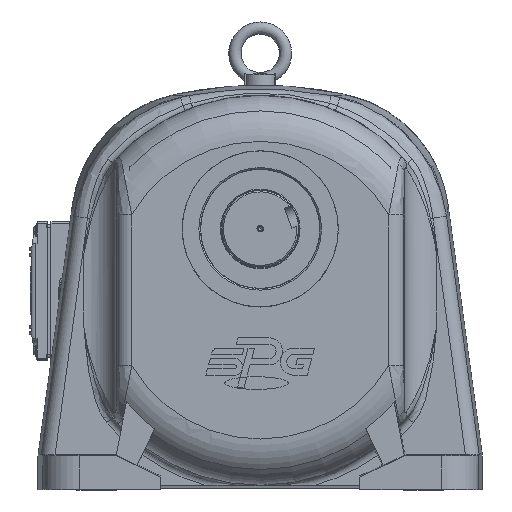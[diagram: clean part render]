
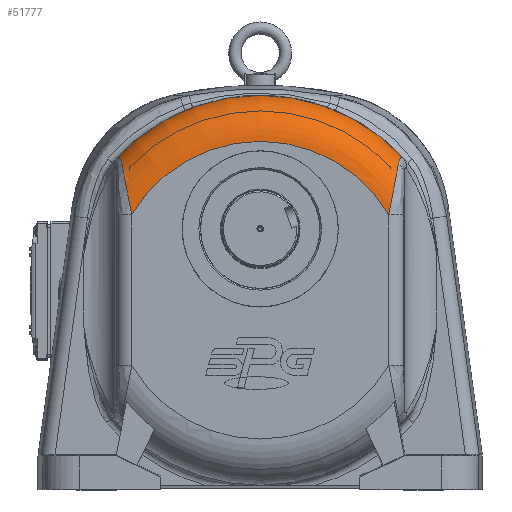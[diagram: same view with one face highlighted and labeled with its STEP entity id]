
A CAD part, top view. The second image highlights one B-rep face of the part: STEP entity #51777.
In plain terms, the highlighted toroidal (fillet/blend) face has major radius 97.099 mm and minor radius 30 mm.
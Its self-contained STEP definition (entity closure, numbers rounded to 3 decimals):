
#6596=TOROIDAL_SURFACE('',#56005,97.099,30.);
#9156=FACE_OUTER_BOUND('',#12359,.T.);
#12359=EDGE_LOOP('',(#38101,#38102,#38103,#38104,#38105,#38106));
#15581=CIRCLE('',#55936,97.099);
#15631=CIRCLE('',#56006,127.093);
#17961=B_SPLINE_CURVE_WITH_KNOTS('',3,(#90216,#90217,#90218,#90219,#90220,
#90221),.UNSPECIFIED.,.F.,.F.,(4,1,1,4),(-1.203,-0.859,
-0.515,0.),.UNSPECIFIED.);
#17963=B_SPLINE_CURVE_WITH_KNOTS('',3,(#90309,#90310,#90311,#90312,#90313,
#90314,#90315),.UNSPECIFIED.,.F.,.F.,(4,1,1,1,4),(-2.952,-2.53,
-2.109,-1.265,0.),.UNSPECIFIED.);
#17973=B_SPLINE_CURVE_WITH_KNOTS('',3,(#90806,#90807,#90808,#90809,#90810,
#90811,#90812,#90813),.UNSPECIFIED.,.F.,.F.,(4,1,1,1,1,4),(-2.954,
-2.11,-1.266,-0.844,-0.422,
0.),.UNSPECIFIED.);
#17974=B_SPLINE_CURVE_WITH_KNOTS('',3,(#90851,#90852,#90853,#90854,#90855,
#90856,#90857),.UNSPECIFIED.,.F.,.F.,(4,1,1,1,4),(-1.203,-0.859,
-0.516,-0.344,0.),.UNSPECIFIED.);
#21457=VERTEX_POINT('',#89572);
#21459=VERTEX_POINT('',#89576);
#21520=VERTEX_POINT('',#90213);
#21521=VERTEX_POINT('',#90215);
#21531=VERTEX_POINT('',#90805);
#21532=VERTEX_POINT('',#90850);
#27327=EDGE_CURVE('',#21457,#21459,#15581,.T.);
#27393=EDGE_CURVE('',#21520,#21521,#17961,.T.);
#27397=EDGE_CURVE('',#21521,#21459,#17963,.T.);
#27415=EDGE_CURVE('',#21457,#21531,#17973,.T.);
#27417=EDGE_CURVE('',#21531,#21532,#17974,.T.);
#27466=EDGE_CURVE('',#21520,#21532,#15631,.T.);
#38101=ORIENTED_EDGE('',*,*,#27466,.T.);
#38102=ORIENTED_EDGE('',*,*,#27417,.F.);
#38103=ORIENTED_EDGE('',*,*,#27415,.F.);
#38104=ORIENTED_EDGE('',*,*,#27327,.T.);
#38105=ORIENTED_EDGE('',*,*,#27397,.F.);
#38106=ORIENTED_EDGE('',*,*,#27393,.F.);
#51777=ADVANCED_FACE('',(#9156),#6596,.T.);
#55936=AXIS2_PLACEMENT_3D('',#89578,#64877,#64878);
#56005=AXIS2_PLACEMENT_3D('',#91940,#65061,#65062);
#56006=AXIS2_PLACEMENT_3D('',#91941,#65063,#65064);
#64877=DIRECTION('center_axis',(0.,0.,-1.));
#64878=DIRECTION('ref_axis',(-0.521,0.854,0.));
#65061=DIRECTION('center_axis',(0.,0.,-1.));
#65062=DIRECTION('ref_axis',(-1.,0.,0.));
#65063=DIRECTION('center_axis',(0.,0.,1.));
#65064=DIRECTION('ref_axis',(-0.521,0.854,0.));
#89572=CARTESIAN_POINT('',(-72.462,65.375,60.));
#89576=CARTESIAN_POINT('',(95.098,65.375,60.));
#89578=CARTESIAN_POINT('Origin',(11.318,16.293,60.));
#90213=CARTESIAN_POINT('',(104.934,102.25,30.605));
#90215=CARTESIAN_POINT('',(101.455,98.457,46.783));
#90216=CARTESIAN_POINT('Ctrl Pts',(104.934,102.25,30.605));
#90217=CARTESIAN_POINT('Ctrl Pts',(104.493,102.686,32.094));
#90218=CARTESIAN_POINT('Ctrl Pts',(103.626,103.191,35.314));
#90219=CARTESIAN_POINT('Ctrl Pts',(102.349,102.189,41.285));
#90220=CARTESIAN_POINT('Ctrl Pts',(101.751,99.981,44.936));
#90221=CARTESIAN_POINT('Ctrl Pts',(101.455,98.457,46.783));
#90309=CARTESIAN_POINT('Ctrl Pts',(101.455,98.457,46.783));
#90310=CARTESIAN_POINT('Ctrl Pts',(101.212,97.209,48.294));
#90311=CARTESIAN_POINT('Ctrl Pts',(100.682,94.446,51.016));
#90312=CARTESIAN_POINT('Ctrl Pts',(99.519,88.317,55.228));
#90313=CARTESIAN_POINT('Ctrl Pts',(97.639,78.453,59.151));
#90314=CARTESIAN_POINT('Ctrl Pts',(96.018,70.131,60.));
#90315=CARTESIAN_POINT('Ctrl Pts',(95.098,65.375,60.));
#90805=CARTESIAN_POINT('',(-78.818,98.457,46.783));
#90806=CARTESIAN_POINT('Ctrl Pts',(-72.462,65.375,60.));
#90807=CARTESIAN_POINT('Ctrl Pts',(-73.075,68.548,60.));
#90808=CARTESIAN_POINT('Ctrl Pts',(-74.339,75.043,59.551));
#90809=CARTESIAN_POINT('Ctrl Pts',(-75.941,83.369,57.336));
#90810=CARTESIAN_POINT('Ctrl Pts',(-77.169,89.826,54.193));
#90811=CARTESIAN_POINT('Ctrl Pts',(-78.043,94.434,51.023));
#90812=CARTESIAN_POINT('Ctrl Pts',(-78.575,97.209,48.295));
#90813=CARTESIAN_POINT('Ctrl Pts',(-78.818,98.457,46.783));
#90850=CARTESIAN_POINT('',(-82.297,102.25,30.605));
#90851=CARTESIAN_POINT('Ctrl Pts',(-78.818,98.457,46.783));
#90852=CARTESIAN_POINT('Ctrl Pts',(-79.016,99.473,45.551));
#90853=CARTESIAN_POINT('Ctrl Pts',(-79.46,101.314,42.827));
#90854=CARTESIAN_POINT('Ctrl Pts',(-80.245,102.688,38.74));
#90855=CARTESIAN_POINT('Ctrl Pts',(-81.199,103.059,34.544));
#90856=CARTESIAN_POINT('Ctrl Pts',(-81.856,102.686,32.095));
#90857=CARTESIAN_POINT('Ctrl Pts',(-82.297,102.25,30.605));
#91940=CARTESIAN_POINT('Origin',(11.318,16.293,30.));
#91941=CARTESIAN_POINT('Origin',(11.318,16.293,30.605));
